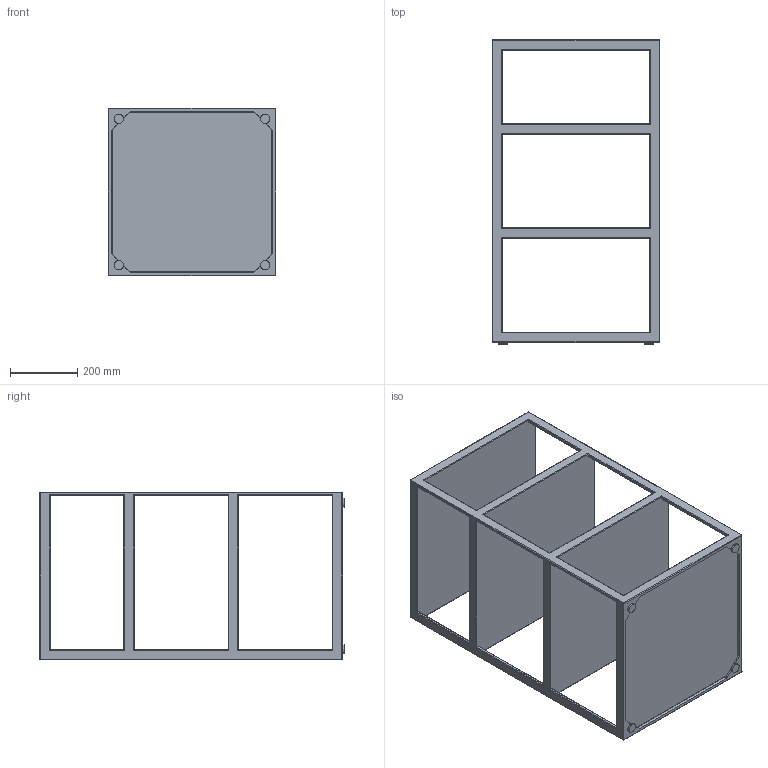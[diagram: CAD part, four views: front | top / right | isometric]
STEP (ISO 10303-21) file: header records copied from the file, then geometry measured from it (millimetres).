
FILE_DESCRIPTION(/* description */ (''),/* implementation_level */ '2;1');
FILE_NAME(/* name */ 'C:\INVENTOR\Workspace\# ARKITEKT FILER\Open Kitchen\OK Side Board 50\OK Side Board 50 No Teak.stp',/* time_stamp */ '2020-05-05T08:53:00+02:00',/* author */ ('Röshults'),/* organization */ (''),/* preprocessor_version */ 'ST-DEVELOPER v17.2',/* originating_system */ 'Autodesk Inventor 2019',/* authorisation */ '');
FILE_SCHEMA (('AUTOMOTIVE_DESIGN { 1 0 10303 214 3 1 1 }'));
Length unit declared in the file: millimetre
Products named in the file (3): OK Side Board 50 No Teak; Open Kitchen Side Board 50; Open Hylla 50
Assembly tree (2 placements, depth 2):
  OK Side Board 50 No Teak
    Open Kitchen Side Board 50
    Open Hylla 50
Bounding box: 500 x 905 x 500 mm (x, y, z)
Volume: 29089081 mm3; surface area: 2615777.4 mm2
Topology: 2 solids, 2 shells, 221 faces, 528 edges, 308 vertices
Faces by surface type: cylinder 116, plane 89, sphere 16
Full cylindrical faces by diameter (mm): 28 x4
Entity records: 6412 total; most frequent: DIRECTION 1144, CARTESIAN_POINT 1062, ORIENTED_EDGE 1056, EDGE_CURVE 528, AXIS2_PLACEMENT_3D 390, LINE 364, VECTOR 364, VERTEX_POINT 308
